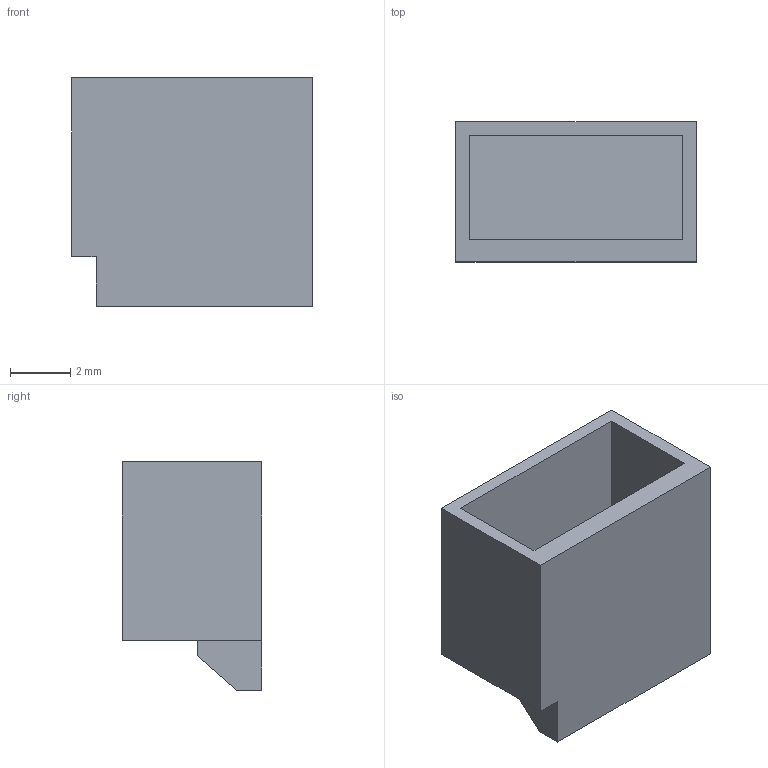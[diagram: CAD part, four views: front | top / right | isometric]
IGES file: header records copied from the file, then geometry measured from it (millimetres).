
Start section:  PTC IGES file: j4a-cn6.igs
Global section: file name: j4a-cn6.igs; native system: Pro/ENGINEER by Parametric Technology Corporation; preprocessor: 2010160; author: CV86875; organization: Unknown; date: 20121031.194150; units: millimetre
Bounding box: 8 x 4.65 x 7.6 mm (x, y, z)
Volume: 133.7 mm3; surface area: 342 mm2
Topology: 1 solids, 1 shells, 15 faces, 36 edges, 24 vertices
Faces by surface type: bspline 15
